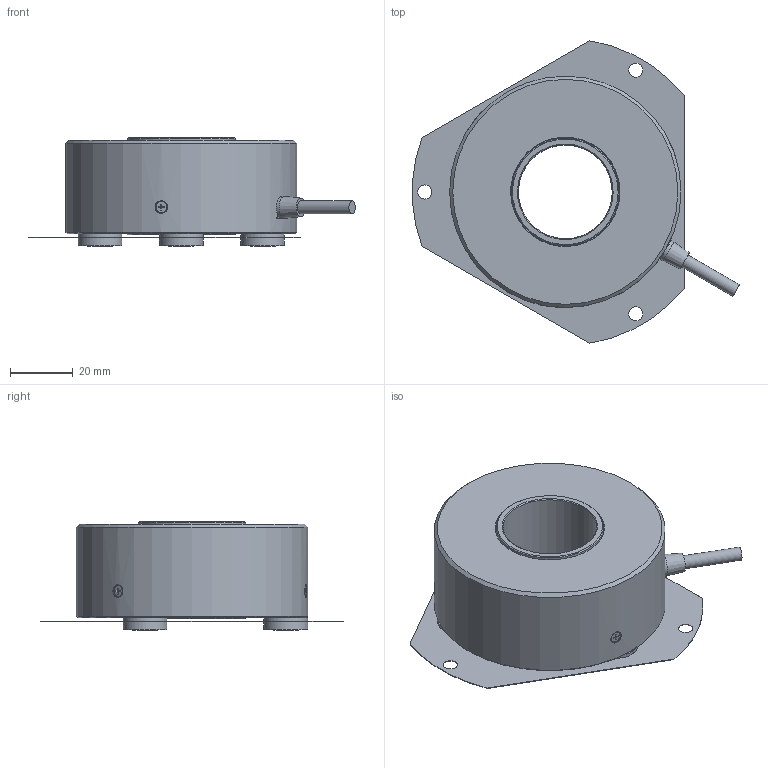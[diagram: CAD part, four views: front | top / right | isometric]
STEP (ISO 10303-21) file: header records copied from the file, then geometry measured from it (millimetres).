
FILE_DESCRIPTION(('STEP AP242'),'1');
FILE_NAME('.stp','2023-02-20T06:27:12',(' '),(' '),'Spatial InterOp 3D',' ',' ');
FILE_SCHEMA(('AP242_MANAGED_MODEL_BASED_3D_ENGINEERING_MIM_LF {1 0 10303 442 1 1 4}'));
Length unit declared in the file: millimetre
Products named in the file (1): L6A04A MEH-60-＊＊＊P
Bounding box: 104.57 x 96.75 x 34.75 mm (x, y, z)
Volume: 110242.6 mm3; surface area: 27954.7 mm2
Topology: 1 solids, 9 shells, 199 faces, 476 edges, 306 vertices
Faces by surface type: plane 119, cylinder 59, cone 21
Full cylindrical faces by diameter (mm): 2 x6, 2.3 x3, 3.3 x6, 3.5 x2, 4 x6, 4.2 x1, 4.5 x6, 5 x3, 7 x1, 8 x3, 14 x6, 30 x1, 34.4 x1, 35 x2, 40 x1, 45 x1, 46 x1, 47 x1, 74 x1
Entity records: 7082 total; most frequent: CARTESIAN_POINT 1225, DIRECTION 888, ORIENTED_EDGE 726, EDGE_CURVE 363, AXIS2_PLACEMENT_3D 336, EDGE_LOOP 307, VERTEX_POINT 269, FACE_OUTER_BOUND 251
